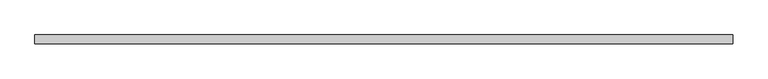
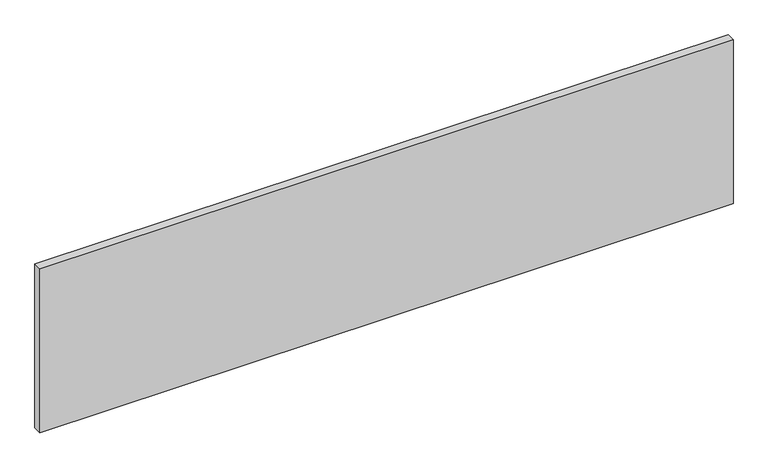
"""IFC4 building model written with IfcOpenShell, lengths in millimetres: plate geometry, 系统嵌板 : 玻璃."""

from ifc_helpers import new_model, si_unit, origin, origin_with_axes, place, context, project, spatial, polyline, outline, extrude, source, transform, mapped, element, save


def plate_752961ee(model_context):
    return source(origin(), model_context, "Body", "SweptSolid", [
        extrude(outline(polyline([(1000.0, -12.5), (-1000.0, -12.5), (-1000.0, 12.5), (1000.0, 12.5), (1000.0, -12.5)])), origin_with_axes(), (0.0, 0.0, 1.0), 500.0),
    ])


if __name__ == "__main__":
    model = new_model("IFC4")
    model_context = context("Model", 3, world=origin())
    ifc_project = project(units=[si_unit("LENGTHUNIT", "METRE", prefix="MILLI")], contexts=[model_context])
    site = spatial("IfcSite", under=ifc_project)
    building = spatial("IfcBuilding", under=site)
    placement = place(None, origin())
    plate_shape = plate_752961ee(model_context)
    element("IfcPlate", 1, ObjectType="系统嵌板 : 玻璃", at=placement, inside=building, context=model_context, shape_type="MappedRepresentation", body=[
        mapped(plate_shape, transform((0.0, 0.0, 0.0), x_axis=(1.0, 0.0, 0.0), y_axis=(0.0, 1.0, 0.0), z_axis=(0.0, 0.0, 1.0))),
    ])
    save(model, "model.ifc")
